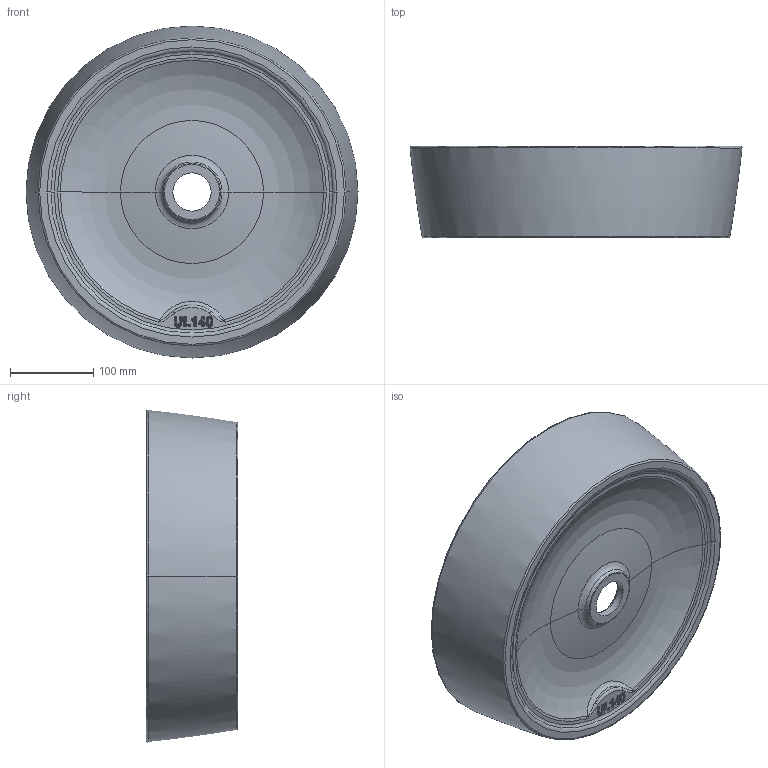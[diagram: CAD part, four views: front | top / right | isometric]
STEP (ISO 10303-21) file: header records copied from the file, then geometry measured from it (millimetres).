
FILE_DESCRIPTION (( 'STEP AP203' ), '1' );
FILE_NAME ('UL140.STEP', '2021-07-14T07:32:25', ( '' ), ( '' ), 'SwSTEP 2.0', 'SolidWorks 2020', '' );
FILE_SCHEMA (( 'CONFIG_CONTROL_DESIGN' ));
Length unit declared in the file: millimetre
Products named in the file (1): UL140
Bounding box: 399.56 x 110 x 399.56 mm (x, y, z)
Volume: 4554903 mm3; surface area: 407977.6 mm2
Topology: 1 solids, 1 shells, 218 faces, 509 edges, 269 vertices
Faces by surface type: bspline 69, torus 68, cylinder 65, plane 14, cone 2
Entity records: 10803 total; most frequent: CARTESIAN_POINT 6422, ORIENTED_EDGE 954, DIRECTION 861, EDGE_CURVE 477, AXIS2_PLACEMENT_3D 378, VERTEX_POINT 269, EDGE_LOOP 228, CIRCLE 228
